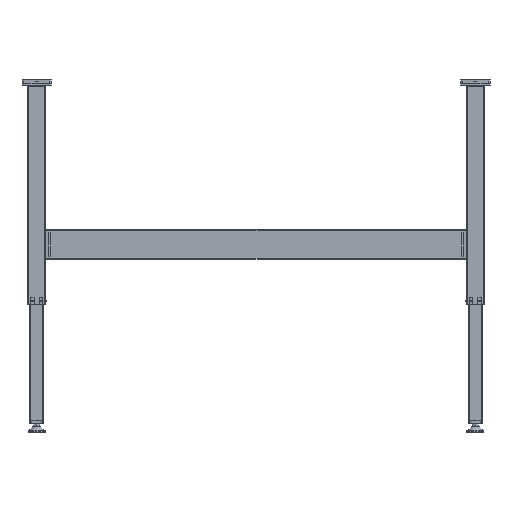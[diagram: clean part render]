
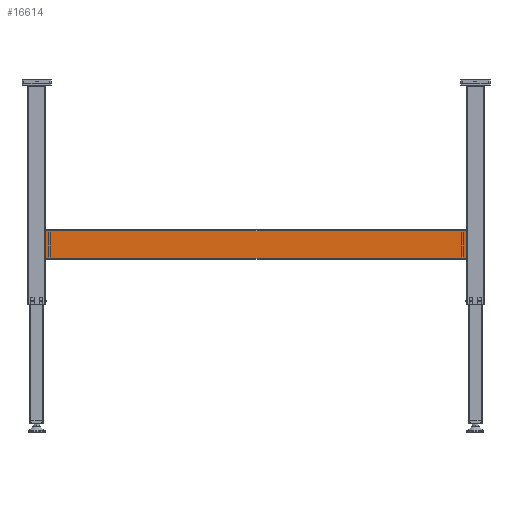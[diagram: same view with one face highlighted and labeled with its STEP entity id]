
A CAD part, left-side view. The second image highlights one B-rep face of the part: STEP entity #16614.
In plain terms, the highlighted planar face has unit normal (-1, 0, 0) as drawn and (0, 0, 1) by its records, which use the part's own axes.
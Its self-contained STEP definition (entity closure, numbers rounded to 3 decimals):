
#5852=ORIENTED_EDGE('',*,*,#8189,.F.);
#5853=ORIENTED_EDGE('',*,*,#8188,.F.);
#5854=ORIENTED_EDGE('',*,*,#8190,.T.);
#5855=ORIENTED_EDGE('',*,*,#8191,.T.);
#8188=EDGE_CURVE('',#9743,#9742,#11147,.T.);
#8189=EDGE_CURVE('',#9742,#9744,#11148,.T.);
#8190=EDGE_CURVE('',#9743,#9745,#11149,.T.);
#8191=EDGE_CURVE('',#9745,#9744,#11150,.T.);
#9742=VERTEX_POINT('',#34752);
#9743=VERTEX_POINT('',#34754);
#9744=VERTEX_POINT('',#34758);
#9745=VERTEX_POINT('',#34760);
#11147=LINE('',#34755,#12543);
#11148=LINE('',#34757,#12544);
#11149=LINE('',#34759,#12545);
#11150=LINE('',#34761,#12546);
#12543=VECTOR('',#28039,1000.);
#12544=VECTOR('',#28042,1000.);
#12545=VECTOR('',#28043,1000.);
#12546=VECTOR('',#28044,1000.);
#13786=EDGE_LOOP('',(#5852,#5853,#5854,#5855));
#15086=FACE_BOUND('',#13786,.T.);
#15716=PLANE('',#23421);
#16614=ADVANCED_FACE('',(#15086),#15716,.T.);
#23421=AXIS2_PLACEMENT_3D('',#34756,#28040,#28041);
#28039=DIRECTION('',(0.,-1.,0.));
#28040=DIRECTION('',(0.,0.,1.));
#28041=DIRECTION('',(1.,0.,0.));
#28042=DIRECTION('',(-1.,0.,0.));
#28043=DIRECTION('',(-1.,0.,0.));
#28044=DIRECTION('',(0.,-1.,0.));
#34752=CARTESIAN_POINT('',(38.,0.,25.));
#34754=CARTESIAN_POINT('',(38.,1150.,25.));
#34755=CARTESIAN_POINT('',(38.,1150.,25.));
#34756=CARTESIAN_POINT('',(38.,1150.,25.));
#34757=CARTESIAN_POINT('',(38.,0.,25.));
#34758=CARTESIAN_POINT('',(-38.,0.,25.));
#34759=CARTESIAN_POINT('',(38.,1150.,25.));
#34760=CARTESIAN_POINT('',(-38.,1150.,25.));
#34761=CARTESIAN_POINT('',(-38.,1150.,25.));
